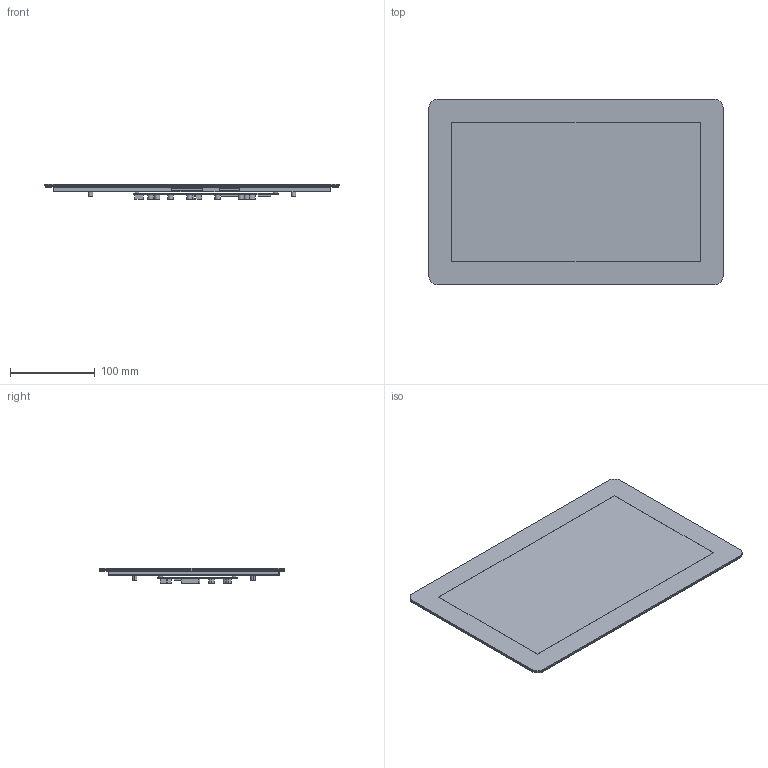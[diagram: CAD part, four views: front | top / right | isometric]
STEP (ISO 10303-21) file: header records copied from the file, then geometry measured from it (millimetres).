
FILE_DESCRIPTION((''),'2;1');
FILE_NAME('DMG19108K133-01WTC','2022-04-02T',('Administrator'),(''),'PRO/ENGINEER BY PARAMETRIC TECHNOLOGY CORPORATION, 2011310','PRO/ENGINEER BY PARAMETRIC TECHNOLOGY CORPORATION, 2011310','');
FILE_SCHEMA(('CONFIG_CONTROL_DESIGN','SHAPE_APPEARANCE_LAYERS_GROUPS'));
Length unit declared in the file: millimetre
Products named in the file (1): DMG19108K133-01WTC
Bounding box: 347.76 x 219.24 x 17.8 mm (x, y, z)
Volume: 427189 mm3; surface area: 450122.6 mm2
Topology: 1 solids, 2 shells, 473 faces, 1286 edges, 856 vertices
Faces by surface type: plane 267, cylinder 206
Entity records: 18396 total; most frequent: DIRECTION 2644, CARTESIAN_POINT 2615, ORIENTED_EDGE 2572, EDGE_CURVE 1286, AXIS2_PLACEMENT_3D 885, VECTOR 874, LINE 874, VERTEX_POINT 856
